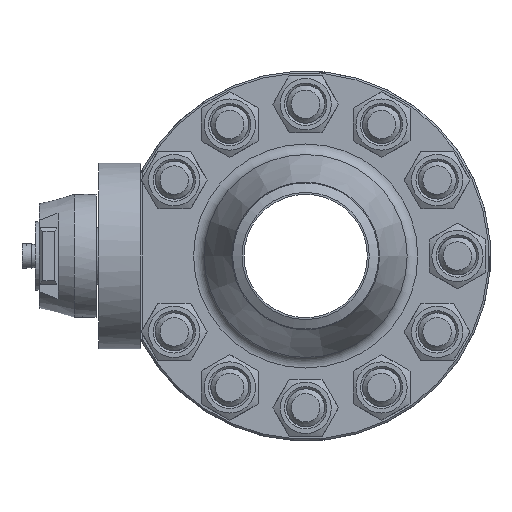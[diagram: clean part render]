
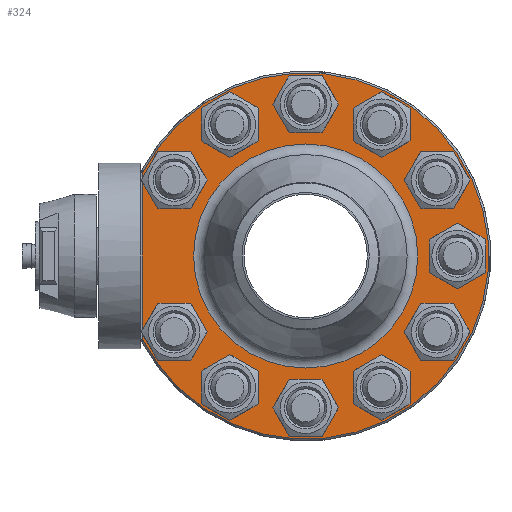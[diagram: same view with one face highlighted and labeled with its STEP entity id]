
A CAD part, left-side view. The second image highlights one B-rep face of the part: STEP entity #324.
In plain terms, the highlighted planar face has unit normal (-1, 0, 0).
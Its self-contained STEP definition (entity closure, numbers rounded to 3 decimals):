
#324=ADVANCED_FACE('',(#5575,#5577,#5579,#5581,#5583,#5585,#5587,#5589,#5591,#5593,
#5595,#5597,#5599),#5601,.T.);
#5575=FACE_BOUND('',#5576,.T.);
#5576=EDGE_LOOP('',(#10230));
#5577=FACE_BOUND('',#5578,.T.);
#5578=EDGE_LOOP('',(#10231));
#5579=FACE_BOUND('',#5580,.T.);
#5580=EDGE_LOOP('',(#10232));
#5581=FACE_BOUND('',#5582,.T.);
#5582=EDGE_LOOP('',(#10233));
#5583=FACE_BOUND('',#5584,.T.);
#5584=EDGE_LOOP('',(#10234));
#5585=FACE_BOUND('',#5586,.T.);
#5586=EDGE_LOOP('',(#10235));
#5587=FACE_BOUND('',#5588,.T.);
#5588=EDGE_LOOP('',(#10236));
#5589=FACE_BOUND('',#5590,.T.);
#5590=EDGE_LOOP('',(#10237));
#5591=FACE_BOUND('',#5592,.T.);
#5592=EDGE_LOOP('',(#10238));
#5593=FACE_BOUND('',#5594,.T.);
#5594=EDGE_LOOP('',(#10239));
#5595=FACE_BOUND('',#5596,.T.);
#5596=EDGE_LOOP('',(#10240));
#5597=FACE_BOUND('',#5598,.T.);
#5598=EDGE_LOOP('',(#10241));
#5599=FACE_OUTER_BOUND('',#5600,.T.);
#5600=EDGE_LOOP('',(#10242,#10243));
#5601=PLANE('',#5602);
#5602=AXIS2_PLACEMENT_3D('',#5603,#5604,#5605);
#5603=CARTESIAN_POINT('',(-74.,0.,0.));
#5604=DIRECTION('',(-1.,0.,0.));
#5605=DIRECTION('',(0.,1.,0.));
#10230=ORIENTED_EDGE('',*,*,#14592,.F.);
#10231=ORIENTED_EDGE('',*,*,#14593,.F.);
#10232=ORIENTED_EDGE('',*,*,#14594,.F.);
#10233=ORIENTED_EDGE('',*,*,#14595,.F.);
#10234=ORIENTED_EDGE('',*,*,#14596,.F.);
#10235=ORIENTED_EDGE('',*,*,#14597,.T.);
#10236=ORIENTED_EDGE('',*,*,#14598,.F.);
#10237=ORIENTED_EDGE('',*,*,#14599,.F.);
#10238=ORIENTED_EDGE('',*,*,#14600,.F.);
#10239=ORIENTED_EDGE('',*,*,#14601,.F.);
#10240=ORIENTED_EDGE('',*,*,#14602,.F.);
#10241=ORIENTED_EDGE('',*,*,#14603,.F.);
#10242=ORIENTED_EDGE('',*,*,#14536,.T.);
#10243=ORIENTED_EDGE('',*,*,#14591,.F.);
#14536=EDGE_CURVE('',#16166,#16164,#16167,.F.);
#14591=EDGE_CURVE('',#16166,#16164,#16261,.T.);
#14592=EDGE_CURVE('',#16262,#16262,#16263,.F.);
#14593=EDGE_CURVE('',#16264,#16264,#16265,.F.);
#14594=EDGE_CURVE('',#16266,#16266,#16267,.F.);
#14595=EDGE_CURVE('',#16268,#16268,#16269,.F.);
#14596=EDGE_CURVE('',#16270,#16270,#16271,.F.);
#14597=EDGE_CURVE('',#16272,#16272,#16273,.T.);
#14598=EDGE_CURVE('',#16274,#16274,#16275,.F.);
#14599=EDGE_CURVE('',#16276,#16276,#16277,.F.);
#14600=EDGE_CURVE('',#16278,#16278,#16279,.F.);
#14601=EDGE_CURVE('',#16280,#16280,#16281,.F.);
#14602=EDGE_CURVE('',#16282,#16282,#16283,.F.);
#14603=EDGE_CURVE('',#16284,#16284,#16285,.F.);
#16164=VERTEX_POINT('',#24466);
#16166=VERTEX_POINT('',#24473);
#16167=LINE('',#24474,#24475);
#16261=CIRCLE('',#24708,96.5);
#16262=VERTEX_POINT('',#24712);
#16263=CIRCLE('',#24713,13.5);
#16264=VERTEX_POINT('',#24717);
#16265=CIRCLE('',#24718,13.5);
#16266=VERTEX_POINT('',#24722);
#16267=CIRCLE('',#24723,13.5);
#16268=VERTEX_POINT('',#24727);
#16269=CIRCLE('',#24728,13.5);
#16270=VERTEX_POINT('',#24732);
#16271=CIRCLE('',#24733,13.5);
#16272=VERTEX_POINT('',#24737);
#16273=CIRCLE('',#24738,59.053);
#16274=VERTEX_POINT('',#24742);
#16275=CIRCLE('',#24743,13.5);
#16276=VERTEX_POINT('',#24747);
#16277=CIRCLE('',#24748,13.5);
#16278=VERTEX_POINT('',#24752);
#16279=CIRCLE('',#24753,13.5);
#16280=VERTEX_POINT('',#24757);
#16281=CIRCLE('',#24758,13.5);
#16282=VERTEX_POINT('',#24762);
#16283=CIRCLE('',#24763,13.5);
#16284=VERTEX_POINT('',#24767);
#16285=CIRCLE('',#24768,13.5);
#24466=CARTESIAN_POINT('',(-74.,86.,-43.775));
#24473=CARTESIAN_POINT('',(-74.,86.,43.775));
#24474=CARTESIAN_POINT('',(-74.,86.,-43.775));
#24475=VECTOR('',#24476,1.);
#24476=DIRECTION('',(0.,0.,1.));
#24708=AXIS2_PLACEMENT_3D('',#24709,#24710,#24711);
#24709=CARTESIAN_POINT('',(-74.,0.,0.));
#24710=DIRECTION('',(1.,0.,0.));
#24711=DIRECTION('',(0.,0.891,0.454));
#24712=CARTESIAN_POINT('',(-74.,40.,82.782));
#24713=AXIS2_PLACEMENT_3D('',#24714,#24715,#24716);
#24714=CARTESIAN_POINT('',(-74.,40.,69.282));
#24715=DIRECTION('',(1.,-0.,-0.));
#24716=DIRECTION('',(0.,0.,1.));
#24717=CARTESIAN_POINT('',(-74.,-51.691,76.032));
#24718=AXIS2_PLACEMENT_3D('',#24719,#24720,#24721);
#24719=CARTESIAN_POINT('',(-74.,-40.,69.282));
#24720=DIRECTION('',(1.,-0.,-0.));
#24721=DIRECTION('',(-0.,-0.866,0.5));
#24722=CARTESIAN_POINT('',(-74.,-91.691,-6.75));
#24723=AXIS2_PLACEMENT_3D('',#24724,#24725,#24726);
#24724=CARTESIAN_POINT('',(-74.,-80.,0.));
#24725=DIRECTION('',(1.,-0.,-0.));
#24726=DIRECTION('',(0.,-0.866,-0.5));
#24727=CARTESIAN_POINT('',(-74.,-40.,-82.782));
#24728=AXIS2_PLACEMENT_3D('',#24729,#24730,#24731);
#24729=CARTESIAN_POINT('',(-74.,-40.,-69.282));
#24730=DIRECTION('',(1.,-0.,-0.));
#24731=DIRECTION('',(0.,0.,-1.));
#24732=CARTESIAN_POINT('',(-74.,51.691,-76.032));
#24733=AXIS2_PLACEMENT_3D('',#24734,#24735,#24736);
#24734=CARTESIAN_POINT('',(-74.,40.,-69.282));
#24735=DIRECTION('',(1.,-0.,-0.));
#24736=DIRECTION('',(0.,0.866,-0.5));
#24737=CARTESIAN_POINT('',(-74.,59.053,0.));
#24738=AXIS2_PLACEMENT_3D('',#24739,#24740,#24741);
#24739=CARTESIAN_POINT('',(-74.,0.,0.));
#24740=DIRECTION('',(1.,-0.,-0.));
#24741=DIRECTION('',(0.,1.,0.));
#24742=CARTESIAN_POINT('',(-74.,82.782,-40.));
#24743=AXIS2_PLACEMENT_3D('',#24744,#24745,#24746);
#24744=CARTESIAN_POINT('',(-74.,69.282,-40.));
#24745=DIRECTION('',(1.,-0.,-0.));
#24746=DIRECTION('',(0.,1.,0.));
#24747=CARTESIAN_POINT('',(-74.,6.75,-91.691));
#24748=AXIS2_PLACEMENT_3D('',#24749,#24750,#24751);
#24749=CARTESIAN_POINT('',(-74.,0.,-80.));
#24750=DIRECTION('',(1.,-0.,-0.));
#24751=DIRECTION('',(0.,0.5,-0.866));
#24752=CARTESIAN_POINT('',(-74.,-76.032,-51.691));
#24753=AXIS2_PLACEMENT_3D('',#24754,#24755,#24756);
#24754=CARTESIAN_POINT('',(-74.,-69.282,-40.));
#24755=DIRECTION('',(1.,-0.,-0.));
#24756=DIRECTION('',(0.,-0.5,-0.866));
#24757=CARTESIAN_POINT('',(-74.,-82.782,40.));
#24758=AXIS2_PLACEMENT_3D('',#24759,#24760,#24761);
#24759=CARTESIAN_POINT('',(-74.,-69.282,40.));
#24760=DIRECTION('',(1.,-0.,-0.));
#24761=DIRECTION('',(0.,-1.,-0.));
#24762=CARTESIAN_POINT('',(-74.,-6.75,91.691));
#24763=AXIS2_PLACEMENT_3D('',#24764,#24765,#24766);
#24764=CARTESIAN_POINT('',(-74.,0.,80.));
#24765=DIRECTION('',(1.,-0.,-0.));
#24766=DIRECTION('',(-0.,-0.5,0.866));
#24767=CARTESIAN_POINT('',(-74.,76.032,51.691));
#24768=AXIS2_PLACEMENT_3D('',#24769,#24770,#24771);
#24769=CARTESIAN_POINT('',(-74.,69.282,40.));
#24770=DIRECTION('',(1.,-0.,-0.));
#24771=DIRECTION('',(0.,0.5,0.866));
